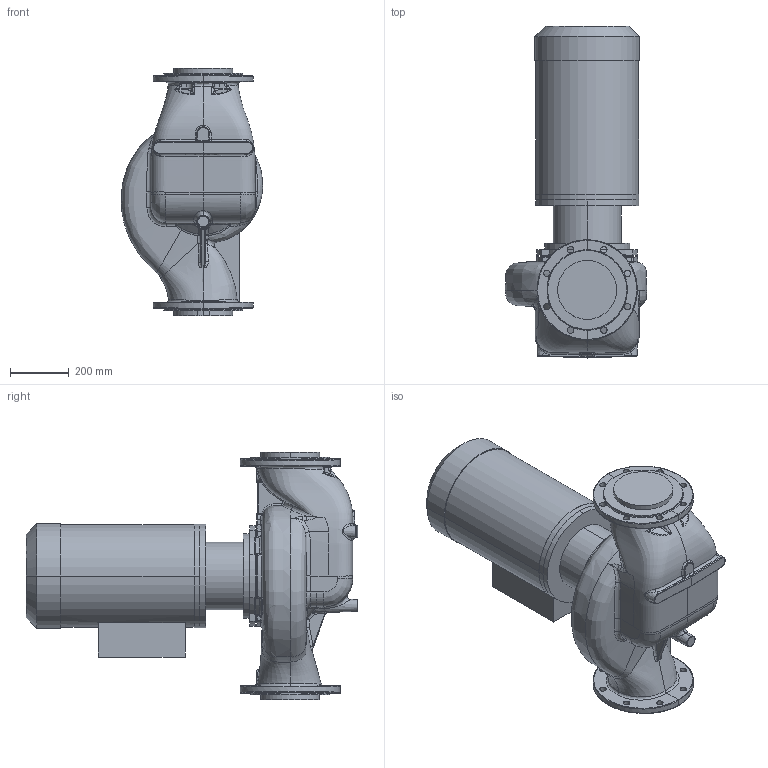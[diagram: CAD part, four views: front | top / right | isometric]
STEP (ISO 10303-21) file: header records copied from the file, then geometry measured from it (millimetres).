
FILE_DESCRIPTION (( 'STEP AP214' ), '1' );
FILE_NAME ('KRL 200-250-4-18,5.STEP', '2026-04-03T13:17:58', ( '' ), ( '' ), 'SwSTEP 2.0', 'SolidWorks 2016', '' );
FILE_SCHEMA (( 'AUTOMOTIVE_DESIGN' ));
Length unit declared in the file: millimetre
Products named in the file (1): KRL 200-250-4-18,5
Bounding box: 479.59 x 1125.8 x 840 mm (x, y, z)
Volume: 137607291 mm3; surface area: 2902324.4 mm2
Topology: 9 solids, 9 shells, 613 faces, 1510 edges, 915 vertices
Faces by surface type: bspline 287, cylinder 130, plane 126, cone 40, torus 24, sphere 6
Entity records: 66511 total; most frequent: CARTESIAN_POINT 47857, ORIENTED_EDGE 2974, DIRECTION 1744, EDGE_CURVE 1487, VERTEX_POINT 915, AXIS2_PLACEMENT_3D 735, EDGE_LOOP 668, B_SPLINE_CURVE_WITH_KNOTS 657
